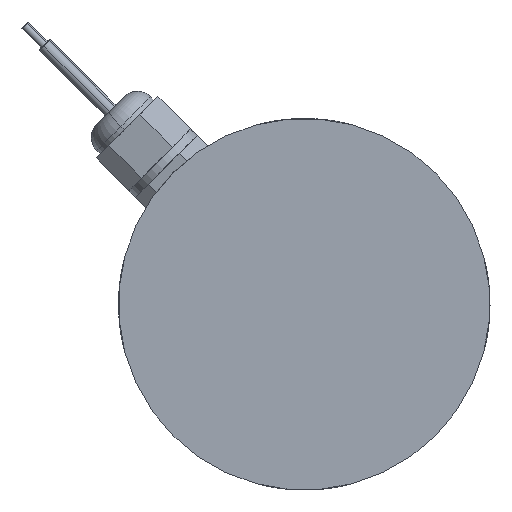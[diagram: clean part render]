
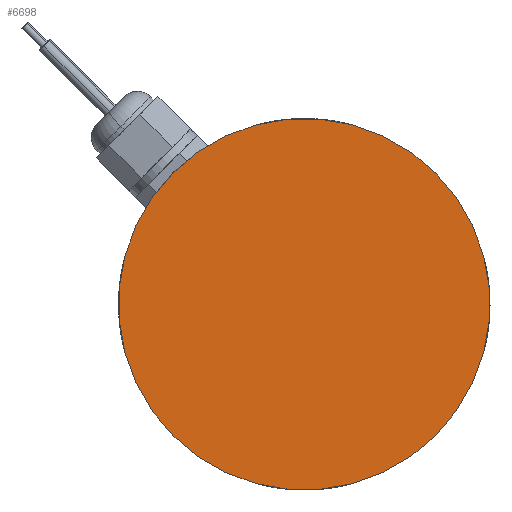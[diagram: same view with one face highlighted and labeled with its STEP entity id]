
A CAD part, left-side view. The second image highlights one B-rep face of the part: STEP entity #6698.
In plain terms, the highlighted planar face has unit normal (-1, 0, 0).
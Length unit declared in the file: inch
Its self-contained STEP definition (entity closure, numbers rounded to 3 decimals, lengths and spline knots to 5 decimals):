
#762 = CARTESIAN_POINT ( 'NONE',  ( -2.25027, 3.30494, 9.46186 ) ) ;
#2115 = DIRECTION ( 'NONE',  ( 1., 0., 0. ) ) ;
#2121 = VERTEX_POINT ( 'NONE', #11233 ) ;
#3020 = ORIENTED_EDGE ( 'NONE', *, *, #8046, .F. ) ;
#3772 = EDGE_LOOP ( 'NONE', ( #11185, #3020 ) ) ;
#3834 = DIRECTION ( 'NONE',  ( 0., -0.707, 0.707 ) ) ;
#4442 = DIRECTION ( 'NONE',  ( 0., -0.707, 0.707 ) ) ;
#4947 = DIRECTION ( 'NONE',  ( 1., 0., 0. ) ) ;
#6526 = DIRECTION ( 'NONE',  ( 1., 0., 0. ) ) ;
#6698 = ADVANCED_FACE ( 'NONE', ( #10739 ), #12320, .F. ) ;
#6970 = CARTESIAN_POINT ( 'NONE',  ( -2.25027, 4.71916, 8.04765 ) ) ;
#7579 = VERTEX_POINT ( 'NONE', #762 ) ;
#8046 = EDGE_CURVE ( 'NONE', #7579, #2121, #10545, .T. ) ;
#8526 = CARTESIAN_POINT ( 'NONE',  ( -2.25027, 4.71916, 8.04765 ) ) ;
#8808 = AXIS2_PLACEMENT_3D ( 'NONE', #6970, #4947, #3834 ) ;
#10265 = AXIS2_PLACEMENT_3D ( 'NONE', #8526, #6526, #4442 ) ;
#10276 = DIRECTION ( 'NONE',  ( 0., -0.707, 0.707 ) ) ;
#10420 = AXIS2_PLACEMENT_3D ( 'NONE', #12475, #2115, #10276 ) ;
#10492 = CIRCLE ( 'NONE', #8808, 2. ) ;
#10545 = CIRCLE ( 'NONE', #10265, 2. ) ;
#10739 = FACE_OUTER_BOUND ( 'NONE', #3772, .T. ) ;
#11185 = ORIENTED_EDGE ( 'NONE', *, *, #12449, .F. ) ;
#11233 = CARTESIAN_POINT ( 'NONE',  ( -2.25027, 6.13337, 6.63344 ) ) ;
#12320 = PLANE ( 'NONE',  #10420 ) ;
#12449 = EDGE_CURVE ( 'NONE', #2121, #7579, #10492, .T. ) ;
#12475 = CARTESIAN_POINT ( 'NONE',  ( -2.25027, 4.71916, 8.04765 ) ) ;
